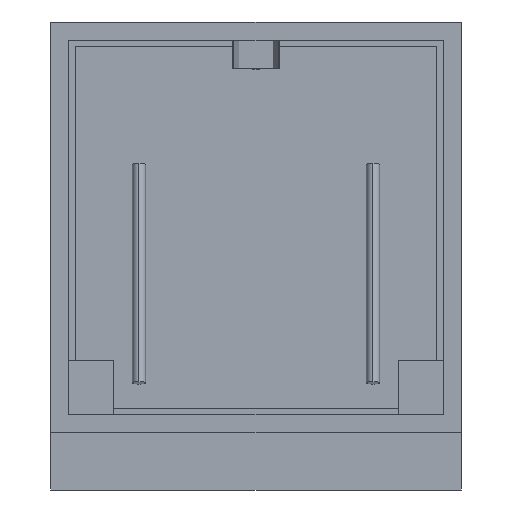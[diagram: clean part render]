
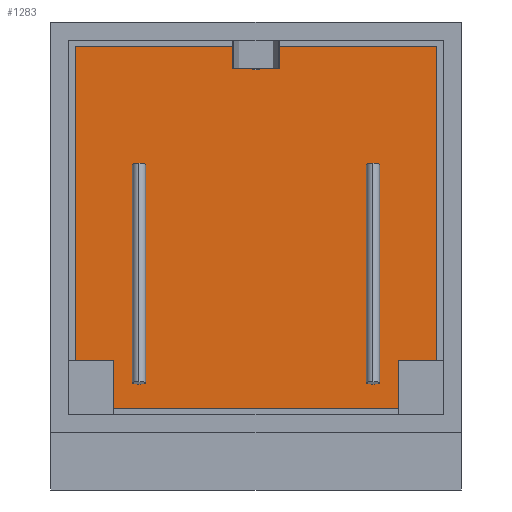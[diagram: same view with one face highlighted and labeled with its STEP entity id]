
A CAD part, front view. The second image highlights one B-rep face of the part: STEP entity #1283.
In plain terms, the highlighted planar face has unit normal (0, -1, 0).
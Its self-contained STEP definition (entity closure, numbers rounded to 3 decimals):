
#216=CARTESIAN_POINT('',(0.,-66.,365.));
#217=DIRECTION('',(0.,1.,0.));
#218=DIRECTION('',(1.,0.,0.));
#219=AXIS2_PLACEMENT_3D('',#216,#217,#218);
#221=CARTESIAN_POINT('',(0.,-66.,365.));
#222=DIRECTION('',(0.,1.,0.));
#223=DIRECTION('',(0.641,0.,0.768));
#224=AXIS2_PLACEMENT_3D('',#221,#222,#223);
#226=DIRECTION('',(-1.,0.,0.));
#227=VECTOR('',#226,368.563);
#228=CARTESIAN_POINT('',(386.5,-66.,386.5));
#229=LINE('',#228,#227);
#230=DIRECTION('',(0.,0.,1.));
#231=VECTOR('',#230,671.5);
#232=CARTESIAN_POINT('',(386.5,-66.,-285.));
#233=LINE('',#232,#231);
#234=DIRECTION('',(1.,0.,0.));
#235=VECTOR('',#234,610.);
#236=CARTESIAN_POINT('',(-305.,-66.,-386.5));
#237=LINE('',#236,#235);
#238=DIRECTION('',(0.,0.,-1.));
#239=VECTOR('',#238,671.5);
#240=CARTESIAN_POINT('',(-386.5,-66.,386.5));
#241=LINE('',#240,#239);
#242=DIRECTION('',(-1.,0.,0.));
#243=VECTOR('',#242,368.563);
#244=CARTESIAN_POINT('',(-17.937,-66.,386.5));
#245=LINE('',#244,#243);
#246=CARTESIAN_POINT('',(0.,-66.,365.));
#247=DIRECTION('',(0.,1.,0.));
#248=DIRECTION('',(-1.,0.,0.));
#249=AXIS2_PLACEMENT_3D('',#246,#247,#248);
#277=DIRECTION('',(-1.,0.,0.));
#278=VECTOR('',#277,81.5);
#279=CARTESIAN_POINT('',(-305.,-66.,-285.));
#280=LINE('',#279,#278);
#289=DIRECTION('',(0.,0.,-1.));
#290=VECTOR('',#289,101.5);
#291=CARTESIAN_POINT('',(-305.,-66.,-285.));
#292=LINE('',#291,#290);
#397=DIRECTION('',(0.,0.,-1.));
#398=VECTOR('',#397,101.5);
#399=CARTESIAN_POINT('',(305.,-66.,-285.));
#400=LINE('',#399,#398);
#409=DIRECTION('',(1.,0.,0.));
#410=VECTOR('',#409,81.5);
#411=CARTESIAN_POINT('',(305.,-66.,-285.));
#412=LINE('',#411,#410);
#965=CARTESIAN_POINT('',(386.5,-66.,386.5));
#966=VERTEX_POINT('',#965);
#967=CARTESIAN_POINT('',(-386.5,-66.,386.5));
#968=VERTEX_POINT('',#967);
#995=CARTESIAN_POINT('',(28.,-66.,365.));
#996=CARTESIAN_POINT('',(-28.,-66.,365.));
#997=VERTEX_POINT('',#995);
#998=VERTEX_POINT('',#996);
#999=CARTESIAN_POINT('',(-17.937,-66.,386.5));
#1000=VERTEX_POINT('',#999);
#1001=CARTESIAN_POINT('',(17.937,-66.,386.5));
#1002=VERTEX_POINT('',#1001);
#1073=CARTESIAN_POINT('',(-305.,-66.,-285.));
#1074=CARTESIAN_POINT('',(-305.,-66.,-386.5));
#1075=VERTEX_POINT('',#1073);
#1076=VERTEX_POINT('',#1074);
#1077=CARTESIAN_POINT('',(-386.5,-66.,-285.));
#1078=VERTEX_POINT('',#1077);
#1079=CARTESIAN_POINT('',(305.,-66.,-285.));
#1080=CARTESIAN_POINT('',(386.5,-66.,-285.));
#1081=VERTEX_POINT('',#1079);
#1082=VERTEX_POINT('',#1080);
#1083=CARTESIAN_POINT('',(305.,-66.,-386.5));
#1084=VERTEX_POINT('',#1083);
#1256=CARTESIAN_POINT('',(0.,-66.,0.));
#1257=DIRECTION('',(0.,-1.,0.));
#1258=DIRECTION('',(1.,0.,0.));
#1259=AXIS2_PLACEMENT_3D('',#1256,#1257,#1258);
#1260=PLANE('',#1259);
#1262=ORIENTED_EDGE('',*,*,#1261,.F.);
#1263=ORIENTED_EDGE('',*,*,#1245,.F.);
#1264=ORIENTED_EDGE('',*,*,#1229,.F.);
#1266=ORIENTED_EDGE('',*,*,#1265,.F.);
#1268=ORIENTED_EDGE('',*,*,#1267,.F.);
#1270=ORIENTED_EDGE('',*,*,#1269,.T.);
#1272=ORIENTED_EDGE('',*,*,#1271,.F.);
#1274=ORIENTED_EDGE('',*,*,#1273,.F.);
#1276=ORIENTED_EDGE('',*,*,#1275,.T.);
#1278=ORIENTED_EDGE('',*,*,#1277,.F.);
#1279=ORIENTED_EDGE('',*,*,#1211,.F.);
#1280=ORIENTED_EDGE('',*,*,#1239,.F.);
#1281=EDGE_LOOP('',(#1262,#1263,#1264,#1266,#1268,#1270,#1272,#1274,#1276,#1278,
#1279,#1280));
#1282=FACE_OUTER_BOUND('',#1281,.F.);
#220=CIRCLE('',#219,28.);
#225=CIRCLE('',#224,28.);
#250=CIRCLE('',#249,28.);
#1211=EDGE_CURVE('',#1000,#968,#245,.T.);
#1229=EDGE_CURVE('',#966,#1002,#229,.T.);
#1239=EDGE_CURVE('',#998,#1000,#250,.T.);
#1245=EDGE_CURVE('',#1002,#997,#225,.T.);
#1261=EDGE_CURVE('',#997,#998,#220,.T.);
#1265=EDGE_CURVE('',#1082,#966,#233,.T.);
#1267=EDGE_CURVE('',#1081,#1082,#412,.T.);
#1269=EDGE_CURVE('',#1081,#1084,#400,.T.);
#1271=EDGE_CURVE('',#1076,#1084,#237,.T.);
#1273=EDGE_CURVE('',#1075,#1076,#292,.T.);
#1275=EDGE_CURVE('',#1075,#1078,#280,.T.);
#1277=EDGE_CURVE('',#968,#1078,#241,.T.);
#1283=ADVANCED_FACE('',(#1282),#1260,.T.);
